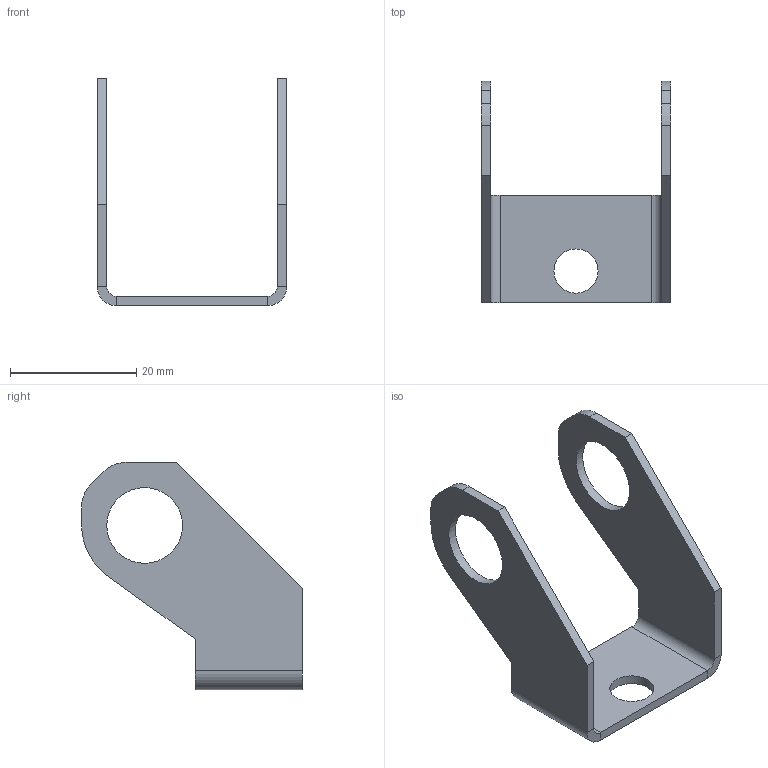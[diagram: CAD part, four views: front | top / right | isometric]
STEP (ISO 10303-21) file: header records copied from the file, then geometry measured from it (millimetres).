
FILE_DESCRIPTION (( 'STEP AP203' ), '1' );
FILE_NAME ('ORW-72.24.20.40.001 Ñêîáà.STEP', '2025-10-13T13:18:10', ( 'Àíäðåé' ), ( '' ), 'SwSTEP 2.0', 'SolidWorks 2025', '' );
FILE_SCHEMA (( 'CONFIG_CONTROL_DESIGN' ));
Length unit declared in the file: millimetre
Products named in the file (1): ORW-72.24.20.40.001 Скоба
Bounding box: 30 x 35 x 36 mm (x, y, z)
Volume: 2586.9 mm3; surface area: 3971.6 mm2
Topology: 1 solids, 1 shells, 39 faces, 96 edges, 59 vertices
Faces by surface type: plane 26, cylinder 13
Full cylindrical faces by diameter (mm): 7 x1, 12 x2
Entity records: 1199 total; most frequent: DIRECTION 198, CARTESIAN_POINT 190, ORIENTED_EDGE 184, EDGE_CURVE 92, VECTOR 66, LINE 66, AXIS2_PLACEMENT_3D 66, VERTEX_POINT 58
